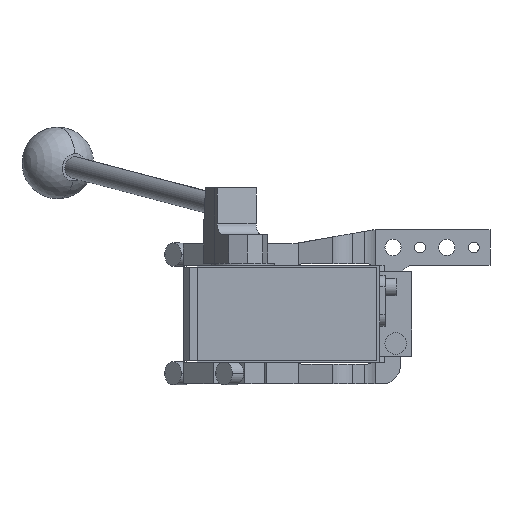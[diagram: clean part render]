
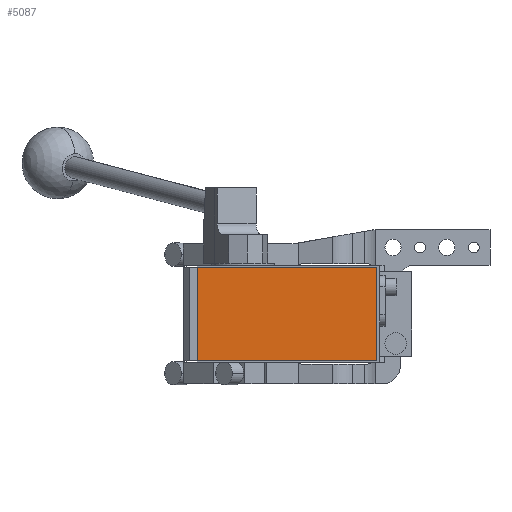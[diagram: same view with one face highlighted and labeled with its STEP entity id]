
A CAD part, front view. The second image highlights one B-rep face of the part: STEP entity #5087.
In plain terms, the highlighted planar face has unit normal (0, -1, 0).
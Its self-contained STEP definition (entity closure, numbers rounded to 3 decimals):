
#768 = PLANE ( 'NONE',  #11730 ) ;
#1827 = EDGE_CURVE ( 'NONE', #13380, #11951, #5335, .T. ) ;
#1984 = FACE_OUTER_BOUND ( 'NONE', #12430, .T. ) ;
#2445 = LINE ( 'NONE', #10801, #8861 ) ;
#2473 = LINE ( 'NONE', #3701, #9729 ) ;
#3023 = CARTESIAN_POINT ( 'NONE',  ( 81., -286.5, 26. ) ) ;
#3101 = DIRECTION ( 'NONE',  ( 0., 0., 1. ) ) ;
#3701 = CARTESIAN_POINT ( 'NONE',  ( -19., -286.5, 26. ) ) ;
#4691 = VERTEX_POINT ( 'NONE', #13125 ) ;
#4694 = ORIENTED_EDGE ( 'NONE', *, *, #14751, .T. ) ;
#5087 = ADVANCED_FACE ( 'NONE', ( #1984 ), #768, .T. ) ;
#5335 = LINE ( 'NONE', #3023, #8563 ) ;
#5677 = EDGE_CURVE ( 'NONE', #4691, #9664, #13290, .T. ) ;
#5893 = EDGE_CURVE ( 'NONE', #11951, #4691, #2473, .T. ) ;
#7288 = ORIENTED_EDGE ( 'NONE', *, *, #1827, .T. ) ;
#8563 = VECTOR ( 'NONE', #3101, 1000. ) ;
#8861 = VECTOR ( 'NONE', #11944, 1000. ) ;
#9055 = ORIENTED_EDGE ( 'NONE', *, *, #5893, .T. ) ;
#9664 = VERTEX_POINT ( 'NONE', #9768 ) ;
#9673 = DIRECTION ( 'NONE',  ( -1., 0., 0. ) ) ;
#9729 = VECTOR ( 'NONE', #9673, 1000. ) ;
#9768 = CARTESIAN_POINT ( 'NONE',  ( -19., -286.5, -26. ) ) ;
#9861 = CARTESIAN_POINT ( 'NONE',  ( -19., -286.5, 26. ) ) ;
#10801 = CARTESIAN_POINT ( 'NONE',  ( -19., -286.5, -26. ) ) ;
#11730 = AXIS2_PLACEMENT_3D ( 'NONE', #12633, #13543, #14905 ) ;
#11913 = CARTESIAN_POINT ( 'NONE',  ( 81., -286.5, 26. ) ) ;
#11916 = VECTOR ( 'NONE', #13151, 1000. ) ;
#11944 = DIRECTION ( 'NONE',  ( 1., 0., 0. ) ) ;
#11951 = VERTEX_POINT ( 'NONE', #11913 ) ;
#12065 = CARTESIAN_POINT ( 'NONE',  ( 81., -286.5, -26. ) ) ;
#12430 = EDGE_LOOP ( 'NONE', ( #13797, #4694, #7288, #9055 ) ) ;
#12633 = CARTESIAN_POINT ( 'NONE',  ( 0., -286.5, 0. ) ) ;
#13125 = CARTESIAN_POINT ( 'NONE',  ( -19., -286.5, 26. ) ) ;
#13151 = DIRECTION ( 'NONE',  ( 0., 0., -1. ) ) ;
#13290 = LINE ( 'NONE', #9861, #11916 ) ;
#13380 = VERTEX_POINT ( 'NONE', #12065 ) ;
#13543 = DIRECTION ( 'NONE',  ( 0., -1., 0. ) ) ;
#13797 = ORIENTED_EDGE ( 'NONE', *, *, #5677, .T. ) ;
#14751 = EDGE_CURVE ( 'NONE', #9664, #13380, #2445, .T. ) ;
#14905 = DIRECTION ( 'NONE',  ( 0., 0., -1. ) ) ;
